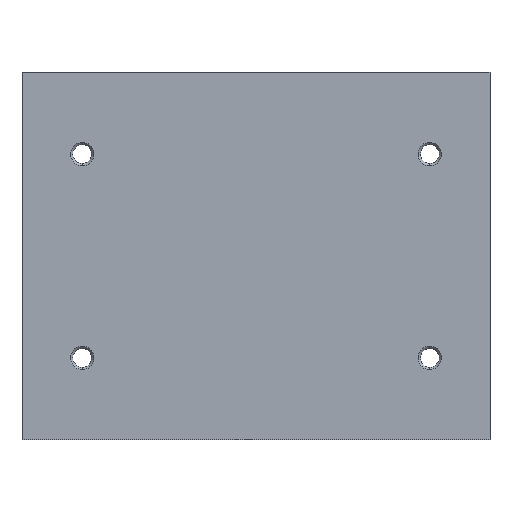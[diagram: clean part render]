
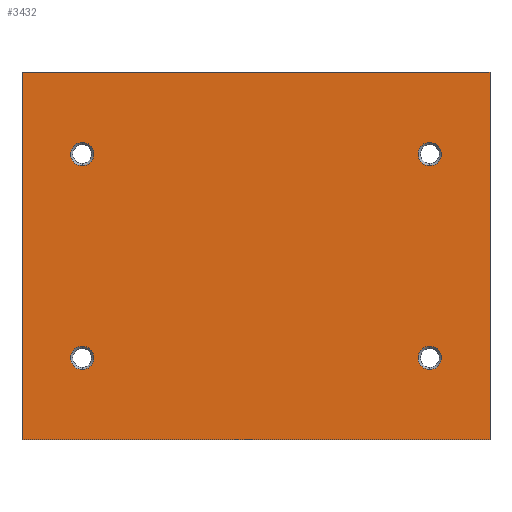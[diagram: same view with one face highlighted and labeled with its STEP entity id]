
A CAD part, front view. The second image highlights one B-rep face of the part: STEP entity #3432.
In plain terms, the highlighted planar face has unit normal (0, -1, 0).
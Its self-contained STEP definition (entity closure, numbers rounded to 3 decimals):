
#94 = VERTEX_POINT ( 'NONE', #15607 ) ;
#483 = AXIS2_PLACEMENT_3D ( 'NONE', #24775, #15371, #1834 ) ;
#834 = AXIS2_PLACEMENT_3D ( 'NONE', #12386, #12593, #14867 ) ;
#1458 = VECTOR ( 'NONE', #15908, 1000. ) ;
#1657 = DIRECTION ( 'NONE',  ( 0., -1., 0. ) ) ;
#1834 = DIRECTION ( 'NONE',  ( 0., 0., -1. ) ) ;
#2301 = CARTESIAN_POINT ( 'NONE',  ( 26., 0., -15.25 ) ) ;
#2324 = PLANE ( 'NONE',  #20563 ) ;
#2446 = EDGE_CURVE ( 'NONE', #16405, #94, #16703, .T. ) ;
#2463 = EDGE_CURVE ( 'NONE', #25608, #16877, #7723, .T. ) ;
#2515 = VERTEX_POINT ( 'NONE', #26355 ) ;
#3415 = CARTESIAN_POINT ( 'NONE',  ( -26., 0., 15.25 ) ) ;
#3432 = ADVANCED_FACE ( 'NONE', ( #21985, #19857, #27632, #17366, #15954 ), #2324, .F. ) ;
#3499 = DIRECTION ( 'NONE',  ( 0., -1., 0. ) ) ;
#3692 = ORIENTED_EDGE ( 'NONE', *, *, #2463, .F. ) ;
#4126 = AXIS2_PLACEMENT_3D ( 'NONE', #8286, #1657, #24321 ) ;
#4311 = CARTESIAN_POINT ( 'NONE',  ( 26., 0., 13.5 ) ) ;
#4492 = CARTESIAN_POINT ( 'NONE',  ( -35., 0., -27.5 ) ) ;
#4505 = CARTESIAN_POINT ( 'NONE',  ( 35., 0., 27.5 ) ) ;
#4913 = EDGE_CURVE ( 'NONE', #16877, #25608, #25287, .T. ) ;
#4967 = EDGE_CURVE ( 'NONE', #7867, #12972, #13196, .T. ) ;
#5093 = EDGE_CURVE ( 'NONE', #9413, #21021, #23833, .T. ) ;
#5486 = DIRECTION ( 'NONE',  ( 0., 0., -1. ) ) ;
#5825 = ORIENTED_EDGE ( 'NONE', *, *, #4967, .F. ) ;
#5961 = AXIS2_PLACEMENT_3D ( 'NONE', #3415, #28528, #12558 ) ;
#5978 = CIRCLE ( 'NONE', #4126, 1.75 ) ;
#6079 = CARTESIAN_POINT ( 'NONE',  ( 26., 0., 17. ) ) ;
#6982 = EDGE_CURVE ( 'NONE', #10877, #2515, #5978, .T. ) ;
#7177 = DIRECTION ( 'NONE',  ( -1., 0., 0. ) ) ;
#7298 = EDGE_CURVE ( 'NONE', #2515, #10877, #9163, .T. ) ;
#7414 = VECTOR ( 'NONE', #29478, 1000. ) ;
#7638 = VERTEX_POINT ( 'NONE', #10128 ) ;
#7723 = CIRCLE ( 'NONE', #17243, 1.75 ) ;
#7797 = CARTESIAN_POINT ( 'NONE',  ( 26., 0., -15.25 ) ) ;
#7867 = VERTEX_POINT ( 'NONE', #4492 ) ;
#8089 = ORIENTED_EDGE ( 'NONE', *, *, #8720, .F. ) ;
#8286 = CARTESIAN_POINT ( 'NONE',  ( -26., 0., -15.25 ) ) ;
#8720 = EDGE_CURVE ( 'NONE', #23527, #7638, #10116, .T. ) ;
#9030 = DIRECTION ( 'NONE',  ( 0., 0., 1. ) ) ;
#9163 = CIRCLE ( 'NONE', #483, 1.75 ) ;
#9413 = VERTEX_POINT ( 'NONE', #15497 ) ;
#10061 = CIRCLE ( 'NONE', #18896, 1.75 ) ;
#10116 = CIRCLE ( 'NONE', #14101, 1.75 ) ;
#10128 = CARTESIAN_POINT ( 'NONE',  ( 26., 0., -13.5 ) ) ;
#10157 = CARTESIAN_POINT ( 'NONE',  ( -35., 0., 27.5 ) ) ;
#10450 = CARTESIAN_POINT ( 'NONE',  ( 35., 0., 27.5 ) ) ;
#10613 = ORIENTED_EDGE ( 'NONE', *, *, #4913, .F. ) ;
#10676 = EDGE_LOOP ( 'NONE', ( #8089, #25883 ) ) ;
#10877 = VERTEX_POINT ( 'NONE', #17659 ) ;
#12386 = CARTESIAN_POINT ( 'NONE',  ( -26., 0., 15.25 ) ) ;
#12478 = ORIENTED_EDGE ( 'NONE', *, *, #15605, .F. ) ;
#12558 = DIRECTION ( 'NONE',  ( 0., 0., -1. ) ) ;
#12576 = DIRECTION ( 'NONE',  ( 0., -1., 0. ) ) ;
#12593 = DIRECTION ( 'NONE',  ( 0., -1., 0. ) ) ;
#12798 = ORIENTED_EDGE ( 'NONE', *, *, #5093, .F. ) ;
#12972 = VERTEX_POINT ( 'NONE', #21826 ) ;
#13196 = LINE ( 'NONE', #10157, #20674 ) ;
#13538 = ORIENTED_EDGE ( 'NONE', *, *, #17677, .F. ) ;
#14101 = AXIS2_PLACEMENT_3D ( 'NONE', #7797, #26027, #17109 ) ;
#14759 = ORIENTED_EDGE ( 'NONE', *, *, #28273, .F. ) ;
#14867 = DIRECTION ( 'NONE',  ( 0., 0., -1. ) ) ;
#14953 = CARTESIAN_POINT ( 'NONE',  ( 26., 0., 15.25 ) ) ;
#15371 = DIRECTION ( 'NONE',  ( 0., -1., 0. ) ) ;
#15497 = CARTESIAN_POINT ( 'NONE',  ( 35., 0., 27.5 ) ) ;
#15605 = EDGE_CURVE ( 'NONE', #21021, #7867, #16784, .T. ) ;
#15607 = CARTESIAN_POINT ( 'NONE',  ( -26., 0., 17. ) ) ;
#15908 = DIRECTION ( 'NONE',  ( 1., 0., 0. ) ) ;
#15954 = FACE_BOUND ( 'NONE', #10676, .T. ) ;
#16405 = VERTEX_POINT ( 'NONE', #26351 ) ;
#16703 = CIRCLE ( 'NONE', #5961, 1.75 ) ;
#16784 = LINE ( 'NONE', #18387, #22158 ) ;
#16877 = VERTEX_POINT ( 'NONE', #4311 ) ;
#17109 = DIRECTION ( 'NONE',  ( 0., 0., -1. ) ) ;
#17135 = CARTESIAN_POINT ( 'NONE',  ( 26., 0., 15.25 ) ) ;
#17243 = AXIS2_PLACEMENT_3D ( 'NONE', #17135, #3499, #21493 ) ;
#17366 = FACE_BOUND ( 'NONE', #19087, .T. ) ;
#17635 = CIRCLE ( 'NONE', #834, 1.75 ) ;
#17659 = CARTESIAN_POINT ( 'NONE',  ( -26., 0., -17. ) ) ;
#17677 = EDGE_CURVE ( 'NONE', #12972, #9413, #27104, .T. ) ;
#17982 = EDGE_LOOP ( 'NONE', ( #13538, #5825, #12478, #12798 ) ) ;
#18112 = ORIENTED_EDGE ( 'NONE', *, *, #6982, .F. ) ;
#18387 = CARTESIAN_POINT ( 'NONE',  ( 35., 0., -27.5 ) ) ;
#18896 = AXIS2_PLACEMENT_3D ( 'NONE', #2301, #29531, #22555 ) ;
#18957 = ORIENTED_EDGE ( 'NONE', *, *, #7298, .F. ) ;
#19087 = EDGE_LOOP ( 'NONE', ( #18112, #18957 ) ) ;
#19503 = EDGE_CURVE ( 'NONE', #7638, #23527, #10061, .T. ) ;
#19661 = CARTESIAN_POINT ( 'NONE',  ( 35., 0., -27.5 ) ) ;
#19848 = AXIS2_PLACEMENT_3D ( 'NONE', #14953, #12576, #5486 ) ;
#19857 = FACE_BOUND ( 'NONE', #26764, .T. ) ;
#19973 = EDGE_LOOP ( 'NONE', ( #27904, #14759 ) ) ;
#20314 = DIRECTION ( 'NONE',  ( 0., 1., 0. ) ) ;
#20563 = AXIS2_PLACEMENT_3D ( 'NONE', #4505, #20314, #9030 ) ;
#20674 = VECTOR ( 'NONE', #28145, 1000. ) ;
#21021 = VERTEX_POINT ( 'NONE', #19661 ) ;
#21493 = DIRECTION ( 'NONE',  ( 0., 0., -1. ) ) ;
#21826 = CARTESIAN_POINT ( 'NONE',  ( -35., 0., 27.5 ) ) ;
#21985 = FACE_OUTER_BOUND ( 'NONE', #17982, .T. ) ;
#22158 = VECTOR ( 'NONE', #7177, 1000. ) ;
#22555 = DIRECTION ( 'NONE',  ( 0., 0., -1. ) ) ;
#23125 = CARTESIAN_POINT ( 'NONE',  ( 35., 0., 27.5 ) ) ;
#23527 = VERTEX_POINT ( 'NONE', #26105 ) ;
#23833 = LINE ( 'NONE', #10450, #7414 ) ;
#24321 = DIRECTION ( 'NONE',  ( 0., 0., -1. ) ) ;
#24775 = CARTESIAN_POINT ( 'NONE',  ( -26., 0., -15.25 ) ) ;
#25287 = CIRCLE ( 'NONE', #19848, 1.75 ) ;
#25608 = VERTEX_POINT ( 'NONE', #6079 ) ;
#25883 = ORIENTED_EDGE ( 'NONE', *, *, #19503, .F. ) ;
#26027 = DIRECTION ( 'NONE',  ( 0., -1., 0. ) ) ;
#26105 = CARTESIAN_POINT ( 'NONE',  ( 26., 0., -17. ) ) ;
#26351 = CARTESIAN_POINT ( 'NONE',  ( -26., 0., 13.5 ) ) ;
#26355 = CARTESIAN_POINT ( 'NONE',  ( -26., 0., -13.5 ) ) ;
#26764 = EDGE_LOOP ( 'NONE', ( #10613, #3692 ) ) ;
#27104 = LINE ( 'NONE', #23125, #1458 ) ;
#27632 = FACE_BOUND ( 'NONE', #19973, .T. ) ;
#27904 = ORIENTED_EDGE ( 'NONE', *, *, #2446, .F. ) ;
#28145 = DIRECTION ( 'NONE',  ( 0., 0., 1. ) ) ;
#28273 = EDGE_CURVE ( 'NONE', #94, #16405, #17635, .T. ) ;
#28528 = DIRECTION ( 'NONE',  ( 0., -1., 0. ) ) ;
#29478 = DIRECTION ( 'NONE',  ( 0., 0., -1. ) ) ;
#29531 = DIRECTION ( 'NONE',  ( 0., -1., 0. ) ) ;
